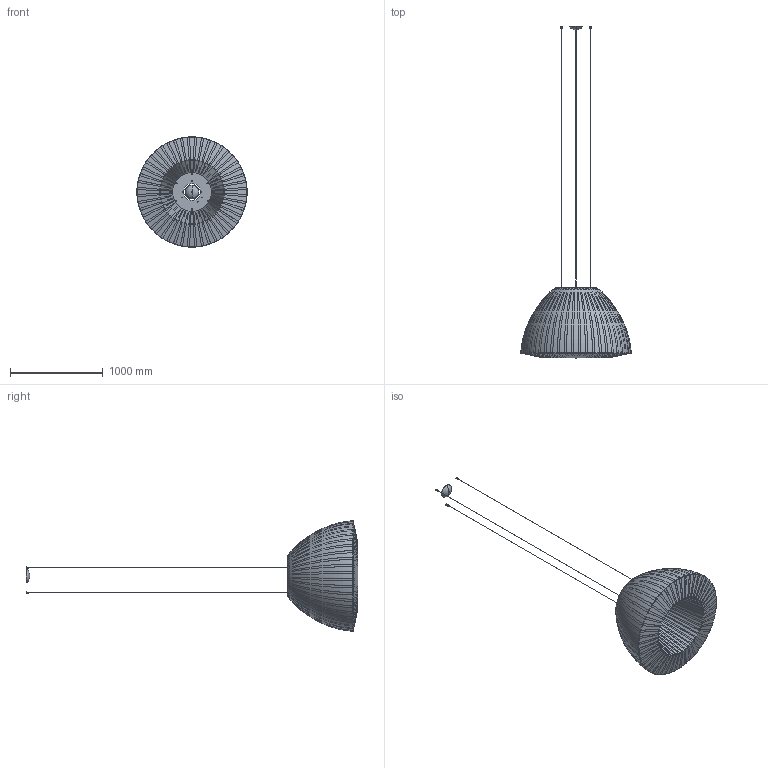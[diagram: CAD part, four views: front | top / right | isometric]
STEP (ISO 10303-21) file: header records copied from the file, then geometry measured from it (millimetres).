
FILE_DESCRIPTION (( 'STEP AP203' ), '1' );
FILE_NAME ('SPBELL118-PER 3D.STEP', '2025-06-26T08:07:35', ( '' ), ( '' ), 'SwSTEP 2.0', 'SolidWorks 2024', '' );
FILE_SCHEMA (( 'CONFIG_CONTROL_DESIGN' ));
Length unit declared in the file: millimetre
Products named in the file (10): PSPBELL118; WSCM1I0008-0242-00; WSCM1I0007-0242-00; BERETTA; WSCM2F0003-0100-00; CL-0284-XX-FE-01; SPBELL118-PER 3D; WSCM1I0006-0242-00
Assembly tree (15 placements, depth 2):
  SPBELL118-PER 3D
    PSPBELL118
    CL-0284-XX-FE-01
    BERETTA
    BERETTA
    BERETTA
    WSCM1I0006-0242-00  x3
    WSCM1I0007-0242-00  x3
    WSCM1I0008-0242-00  x3
    WSCM2F0003-0100-00
Bounding box: 1189.49 x 3580.7 x 1189.49 mm (x, y, z)
Volume: 6225875.4 mm3; surface area: 12411912.5 mm2
Topology: 62 solids, 62 shells, 1495 faces, 3871 edges, 2551 vertices
Faces by surface type: plane 409, torus 392, cylinder 319, cone 261, bspline 108, sphere 6
Entity records: 49134 total; most frequent: CARTESIAN_POINT 20944, DIRECTION 6110, ORIENTED_EDGE 5562, EDGE_CURVE 2781, AXIS2_PLACEMENT_3D 2684, VERTEX_POINT 1843, CIRCLE 1695, EDGE_LOOP 1230
